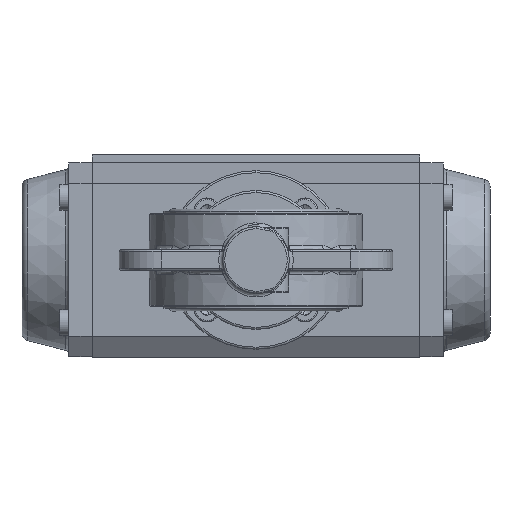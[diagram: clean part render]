
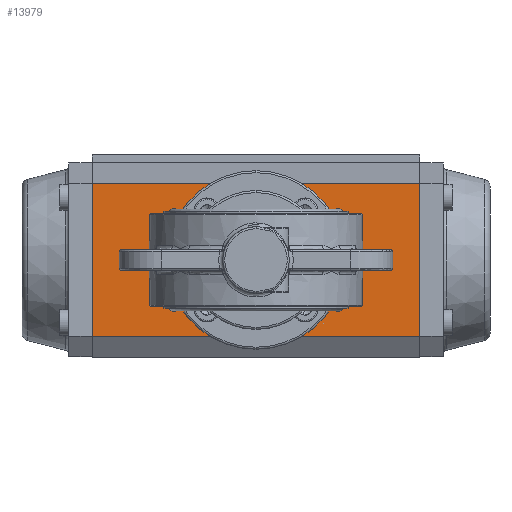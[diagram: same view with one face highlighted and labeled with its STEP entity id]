
A CAD part, front view. The second image highlights one B-rep face of the part: STEP entity #13979.
In plain terms, the highlighted planar face has unit normal (0, -1, 0).
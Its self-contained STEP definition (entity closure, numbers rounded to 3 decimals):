
#137 = CARTESIAN_POINT ( 'NONE',  ( -38.5, -55., -82.5 ) ) ;
#292 = CARTESIAN_POINT ( 'NONE',  ( -38.5, -55., -82.5 ) ) ;
#314 = VECTOR ( 'NONE', #39359, 1000. ) ;
#425 = EDGE_CURVE ( 'NONE', #27080, #6982, #8912, .T. ) ;
#975 = VERTEX_POINT ( 'NONE', #36955 ) ;
#995 = FACE_BOUND ( 'NONE', #34096, .T. ) ;
#1209 = CARTESIAN_POINT ( 'NONE',  ( 24.749, -55., 24.749 ) ) ;
#1583 = EDGE_CURVE ( 'NONE', #34359, #42900, #5474, .T. ) ;
#1969 = VERTEX_POINT ( 'NONE', #23645 ) ;
#2329 = ORIENTED_EDGE ( 'NONE', *, *, #7094, .F. ) ;
#2400 = VECTOR ( 'NONE', #15109, 1000. ) ;
#2673 = VERTEX_POINT ( 'NONE', #137 ) ;
#2965 = CARTESIAN_POINT ( 'NONE',  ( 24.749, -55., 24.749 ) ) ;
#3103 = CARTESIAN_POINT ( 'NONE',  ( -24.749, -55., -24.749 ) ) ;
#3509 = DIRECTION ( 'NONE',  ( 0., -1., 0. ) ) ;
#3724 = EDGE_CURVE ( 'NONE', #30038, #21615, #7545, .T. ) ;
#3733 = CIRCLE ( 'NONE', #10676, 3.4 ) ;
#3834 = ORIENTED_EDGE ( 'NONE', *, *, #10736, .T. ) ;
#3920 = CARTESIAN_POINT ( 'NONE',  ( 24.749, -55., -24.749 ) ) ;
#3931 = DIRECTION ( 'NONE',  ( 0., -1., 0. ) ) ;
#4276 = CARTESIAN_POINT ( 'NONE',  ( -38.5, -55., -82.5 ) ) ;
#4767 = AXIS2_PLACEMENT_3D ( 'NONE', #1209, #26256, #4823 ) ;
#4823 = DIRECTION ( 'NONE',  ( 0., 0., -1. ) ) ;
#5328 = CARTESIAN_POINT ( 'NONE',  ( -24.749, -55., 24.749 ) ) ;
#5474 = CIRCLE ( 'NONE', #46010, 3.4 ) ;
#5823 = CIRCLE ( 'NONE', #29295, 3.4 ) ;
#6573 = DIRECTION ( 'NONE',  ( 0., 0., -1. ) ) ;
#6718 = DIRECTION ( 'NONE',  ( 0., 0., -1. ) ) ;
#6841 = EDGE_LOOP ( 'NONE', ( #36329, #16417 ) ) ;
#6982 = VERTEX_POINT ( 'NONE', #12977 ) ;
#7003 = DIRECTION ( 'NONE',  ( 0., -1., 0. ) ) ;
#7028 = VERTEX_POINT ( 'NONE', #38297 ) ;
#7094 = EDGE_CURVE ( 'NONE', #22665, #1969, #10423, .T. ) ;
#7502 = DIRECTION ( 'NONE',  ( 0., 0., -1. ) ) ;
#7545 = CIRCLE ( 'NONE', #14702, 3.4 ) ;
#8274 = VERTEX_POINT ( 'NONE', #42978 ) ;
#8280 = EDGE_CURVE ( 'NONE', #2673, #22234, #9846, .T. ) ;
#8479 = AXIS2_PLACEMENT_3D ( 'NONE', #292, #3931, #28947 ) ;
#8912 = LINE ( 'NONE', #22284, #10055 ) ;
#8933 = DIRECTION ( 'NONE',  ( 0., 0., -1. ) ) ;
#9846 = LINE ( 'NONE', #17781, #314 ) ;
#10055 = VECTOR ( 'NONE', #25894, 1000. ) ;
#10173 = AXIS2_PLACEMENT_3D ( 'NONE', #24909, #3509, #28538 ) ;
#10423 = CIRCLE ( 'NONE', #34347, 3.4 ) ;
#10676 = AXIS2_PLACEMENT_3D ( 'NONE', #3103, #28107, #6718 ) ;
#10736 = EDGE_CURVE ( 'NONE', #2673, #27080, #40636, .T. ) ;
#10778 = CARTESIAN_POINT ( 'NONE',  ( -38.5, -55., 82.5 ) ) ;
#11386 = CARTESIAN_POINT ( 'NONE',  ( 24.749, -55., 21.349 ) ) ;
#11421 = EDGE_LOOP ( 'NONE', ( #2329, #30039 ) ) ;
#11459 = ORIENTED_EDGE ( 'NONE', *, *, #21899, .F. ) ;
#12753 = ORIENTED_EDGE ( 'NONE', *, *, #8280, .F. ) ;
#12977 = CARTESIAN_POINT ( 'NONE',  ( 38.5, -55., 82.5 ) ) ;
#13234 = CIRCLE ( 'NONE', #15495, 3.4 ) ;
#13650 = ORIENTED_EDGE ( 'NONE', *, *, #30557, .F. ) ;
#13819 = CARTESIAN_POINT ( 'NONE',  ( -24.749, -55., 24.749 ) ) ;
#13979 = ADVANCED_FACE ( 'NONE', ( #38096, #21157, #20047, #995, #28436, #18916 ), #21726, .T. ) ;
#14702 = AXIS2_PLACEMENT_3D ( 'NONE', #3920, #28933, #7502 ) ;
#15062 = DIRECTION ( 'NONE',  ( 0., -1., 0. ) ) ;
#15109 = DIRECTION ( 'NONE',  ( 1., 0., 0. ) ) ;
#15495 = AXIS2_PLACEMENT_3D ( 'NONE', #28422, #7003, #32046 ) ;
#15768 = AXIS2_PLACEMENT_3D ( 'NONE', #39956, #18358, #43569 ) ;
#15790 = EDGE_CURVE ( 'NONE', #1969, #22665, #33876, .T. ) ;
#16417 = ORIENTED_EDGE ( 'NONE', *, *, #3724, .F. ) ;
#16439 = CARTESIAN_POINT ( 'NONE',  ( -24.749, -55., 21.349 ) ) ;
#17443 = DIRECTION ( 'NONE',  ( 0., 0., -1. ) ) ;
#17781 = CARTESIAN_POINT ( 'NONE',  ( -38.5, -55., -82.5 ) ) ;
#18130 = CARTESIAN_POINT ( 'NONE',  ( 24.749, -55., -28.149 ) ) ;
#18320 = EDGE_LOOP ( 'NONE', ( #32834, #20664 ) ) ;
#18358 = DIRECTION ( 'NONE',  ( 0., -1., 0. ) ) ;
#18884 = CIRCLE ( 'NONE', #19132, 3.4 ) ;
#18916 = FACE_OUTER_BOUND ( 'NONE', #36731, .T. ) ;
#19132 = AXIS2_PLACEMENT_3D ( 'NONE', #13819, #38993, #17443 ) ;
#20047 = FACE_BOUND ( 'NONE', #22123, .T. ) ;
#20563 = CARTESIAN_POINT ( 'NONE',  ( -38.5, -55., 82.5 ) ) ;
#20664 = ORIENTED_EDGE ( 'NONE', *, *, #40945, .F. ) ;
#21147 = EDGE_CURVE ( 'NONE', #7028, #42445, #31142, .T. ) ;
#21157 = FACE_BOUND ( 'NONE', #6841, .T. ) ;
#21600 = ORIENTED_EDGE ( 'NONE', *, *, #1583, .F. ) ;
#21615 = VERTEX_POINT ( 'NONE', #18130 ) ;
#21726 = PLANE ( 'NONE',  #8479 ) ;
#21899 = EDGE_CURVE ( 'NONE', #8274, #975, #3733, .T. ) ;
#21926 = EDGE_CURVE ( 'NONE', #21615, #30038, #13234, .T. ) ;
#22123 = EDGE_LOOP ( 'NONE', ( #37816, #11459 ) ) ;
#22234 = VERTEX_POINT ( 'NONE', #20563 ) ;
#22284 = CARTESIAN_POINT ( 'NONE',  ( 38.5, -55., -82.5 ) ) ;
#22304 = CARTESIAN_POINT ( 'NONE',  ( 24.749, -55., -21.349 ) ) ;
#22528 = ORIENTED_EDGE ( 'NONE', *, *, #425, .T. ) ;
#22665 = VERTEX_POINT ( 'NONE', #11386 ) ;
#23050 = EDGE_CURVE ( 'NONE', #975, #8274, #5823, .T. ) ;
#23645 = CARTESIAN_POINT ( 'NONE',  ( 24.749, -55., 28.149 ) ) ;
#24909 = CARTESIAN_POINT ( 'NONE',  ( 0., -55., 0. ) ) ;
#25451 = VECTOR ( 'NONE', #28614, 1000. ) ;
#25894 = DIRECTION ( 'NONE',  ( 0., 0., 1. ) ) ;
#26256 = DIRECTION ( 'NONE',  ( 0., -1., 0. ) ) ;
#26562 = LINE ( 'NONE', #10778, #25451 ) ;
#27080 = VERTEX_POINT ( 'NONE', #32077 ) ;
#27984 = DIRECTION ( 'NONE',  ( 0., -1., 0. ) ) ;
#28107 = DIRECTION ( 'NONE',  ( 0., -1., 0. ) ) ;
#28422 = CARTESIAN_POINT ( 'NONE',  ( 24.749, -55., -24.749 ) ) ;
#28436 = FACE_BOUND ( 'NONE', #18320, .T. ) ;
#28538 = DIRECTION ( 'NONE',  ( 0., 0., -1. ) ) ;
#28614 = DIRECTION ( 'NONE',  ( 1., 0., 0. ) ) ;
#28933 = DIRECTION ( 'NONE',  ( 0., -1., 0. ) ) ;
#28947 = DIRECTION ( 'NONE',  ( 0., 0., -1. ) ) ;
#29295 = AXIS2_PLACEMENT_3D ( 'NONE', #36546, #15062, #40219 ) ;
#30038 = VERTEX_POINT ( 'NONE', #22304 ) ;
#30039 = ORIENTED_EDGE ( 'NONE', *, *, #15790, .F. ) ;
#30369 = DIRECTION ( 'NONE',  ( 0., -1., 0. ) ) ;
#30557 = EDGE_CURVE ( 'NONE', #42900, #34359, #18884, .T. ) ;
#30710 = CARTESIAN_POINT ( 'NONE',  ( -24.749, -55., 28.149 ) ) ;
#31142 = CIRCLE ( 'NONE', #15768, 27.5 ) ;
#32046 = DIRECTION ( 'NONE',  ( 0., 0., -1. ) ) ;
#32077 = CARTESIAN_POINT ( 'NONE',  ( 38.5, -55., -82.5 ) ) ;
#32834 = ORIENTED_EDGE ( 'NONE', *, *, #21147, .F. ) ;
#33876 = CIRCLE ( 'NONE', #4767, 3.4 ) ;
#34096 = EDGE_LOOP ( 'NONE', ( #21600, #13650 ) ) ;
#34347 = AXIS2_PLACEMENT_3D ( 'NONE', #2965, #27984, #6573 ) ;
#34359 = VERTEX_POINT ( 'NONE', #16439 ) ;
#34473 = ORIENTED_EDGE ( 'NONE', *, *, #37551, .F. ) ;
#35278 = CIRCLE ( 'NONE', #10173, 27.5 ) ;
#36329 = ORIENTED_EDGE ( 'NONE', *, *, #21926, .F. ) ;
#36546 = CARTESIAN_POINT ( 'NONE',  ( -24.749, -55., -24.749 ) ) ;
#36731 = EDGE_LOOP ( 'NONE', ( #22528, #34473, #12753, #3834 ) ) ;
#36955 = CARTESIAN_POINT ( 'NONE',  ( -24.749, -55., -28.149 ) ) ;
#37551 = EDGE_CURVE ( 'NONE', #22234, #6982, #26562, .T. ) ;
#37816 = ORIENTED_EDGE ( 'NONE', *, *, #23050, .F. ) ;
#38096 = FACE_BOUND ( 'NONE', #11421, .T. ) ;
#38297 = CARTESIAN_POINT ( 'NONE',  ( 0., -55., -27.5 ) ) ;
#38869 = CARTESIAN_POINT ( 'NONE',  ( 0., -55., 27.5 ) ) ;
#38993 = DIRECTION ( 'NONE',  ( 0., -1., 0. ) ) ;
#39359 = DIRECTION ( 'NONE',  ( 0., 0., 1. ) ) ;
#39956 = CARTESIAN_POINT ( 'NONE',  ( 0., -55., 0. ) ) ;
#40219 = DIRECTION ( 'NONE',  ( 0., 0., -1. ) ) ;
#40636 = LINE ( 'NONE', #4276, #2400 ) ;
#40945 = EDGE_CURVE ( 'NONE', #42445, #7028, #35278, .T. ) ;
#42445 = VERTEX_POINT ( 'NONE', #38869 ) ;
#42900 = VERTEX_POINT ( 'NONE', #30710 ) ;
#42978 = CARTESIAN_POINT ( 'NONE',  ( -24.749, -55., -21.349 ) ) ;
#43569 = DIRECTION ( 'NONE',  ( 0., 0., -1. ) ) ;
#46010 = AXIS2_PLACEMENT_3D ( 'NONE', #5328, #30369, #8933 ) ;
